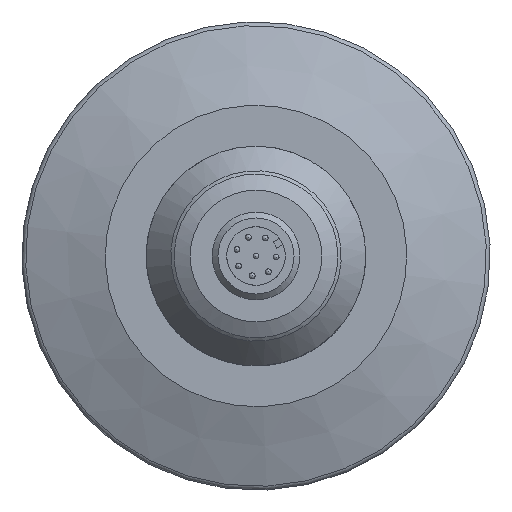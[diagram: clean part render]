
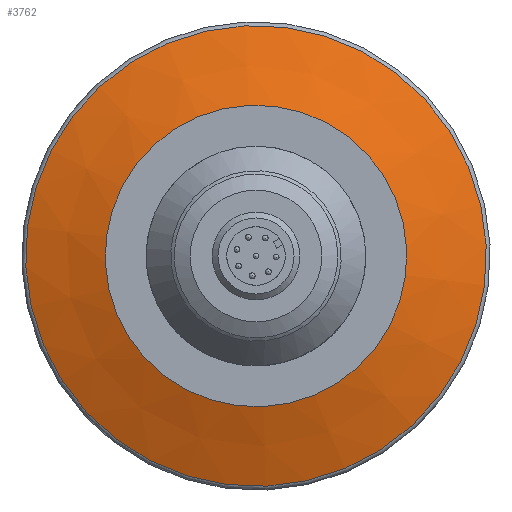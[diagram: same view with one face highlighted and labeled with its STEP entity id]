
A CAD part, front view. The second image highlights one B-rep face of the part: STEP entity #3762.
In plain terms, the highlighted conical face has half-angle 70 degrees and reference radius 31.474 mm.
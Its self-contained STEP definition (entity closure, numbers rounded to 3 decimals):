
#528=CONICAL_SURFACE('',#3945,31.474,1.222);
#592=ORIENTED_EDGE('',*,*,#1330,.F.);
#593=ORIENTED_EDGE('',*,*,#1331,.T.);
#1330=EDGE_CURVE('',#1701,#1701,#1965,.T.);
#1331=EDGE_CURVE('',#1702,#1702,#1966,.T.);
#1701=VERTEX_POINT('',#4606);
#1702=VERTEX_POINT('',#4609);
#1965=CIRCLE('',#3944,31.474);
#1966=CIRCLE('',#3946,20.598);
#2037=EDGE_LOOP('',(#592));
#2038=EDGE_LOOP('',(#593));
#2274=FACE_BOUND('',#2037,.T.);
#2275=FACE_BOUND('',#2038,.T.);
#3762=ADVANCED_FACE('',(#2274,#2275),#528,.T.);
#3944=AXIS2_PLACEMENT_3D('',#4605,#4130,#4131);
#3945=AXIS2_PLACEMENT_3D('',#4607,#4132,#4133);
#3946=AXIS2_PLACEMENT_3D('',#4608,#4134,#4135);
#4130=DIRECTION('',(0.,1.,0.));
#4131=DIRECTION('',(-0.889,0.,0.459));
#4132=DIRECTION('',(0.,1.,0.));
#4133=DIRECTION('',(-0.889,0.,0.459));
#4134=DIRECTION('',(0.,1.,0.));
#4135=DIRECTION('',(-0.889,0.,0.459));
#4605=CARTESIAN_POINT('',(0.,1.953,0.));
#4606=CARTESIAN_POINT('',(-27.967,1.953,14.437));
#4607=CARTESIAN_POINT('',(0.,1.953,0.));
#4608=CARTESIAN_POINT('',(0.,-2.005,0.));
#4609=CARTESIAN_POINT('',(-18.303,-2.005,9.448));
